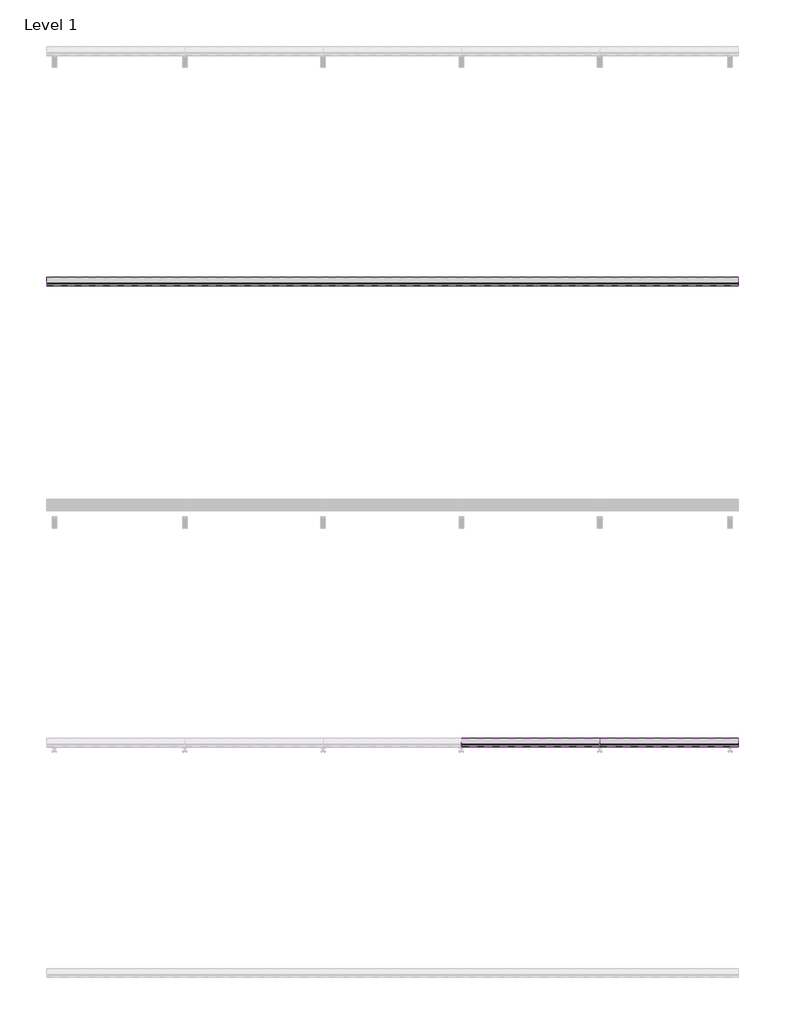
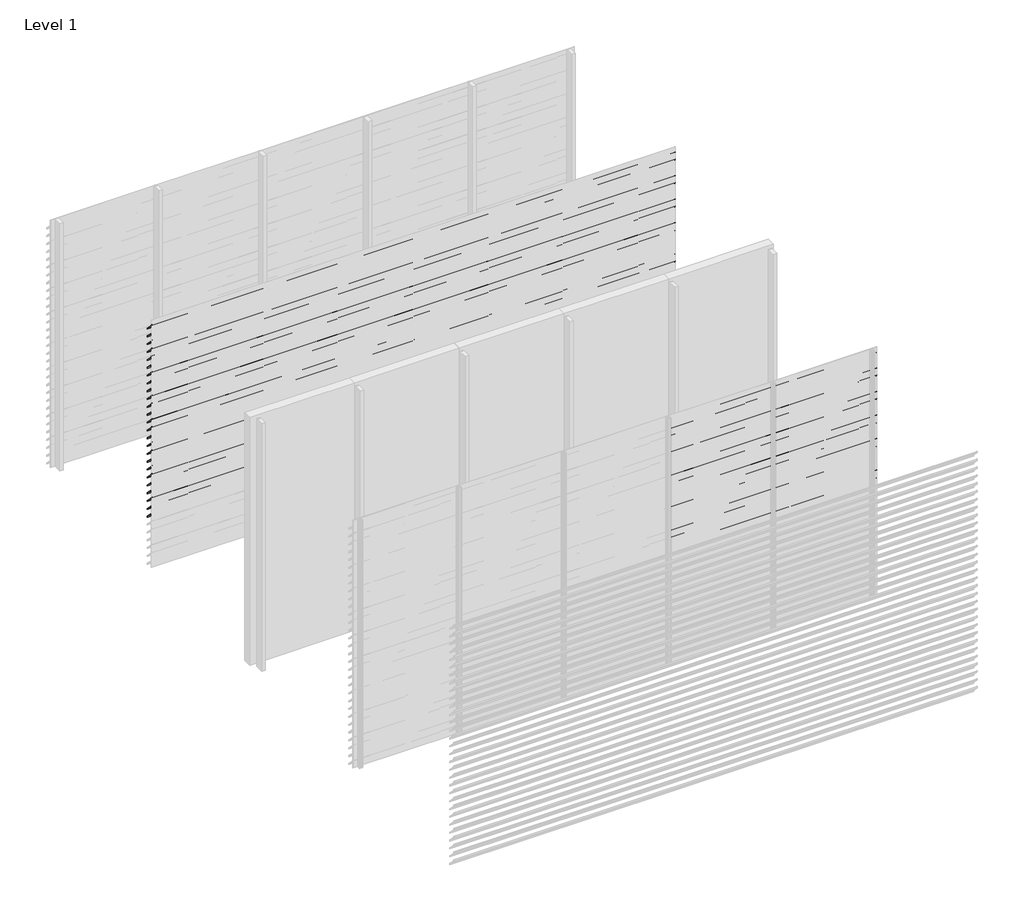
# One storey, part 9 of 24: 88 proxies.
"""IFC4 building model written with IfcOpenShell, lengths in millimetres."""

from ifc_helpers import new_model, si_unit, frame, origin, place, context, project, spatial, polyline, outline, extrude, element, save

model = new_model("IFC4")

# Units and contexts
model_context = context("Model", 3, world=origin())
ifc_project = project(units=[si_unit("LENGTHUNIT", "METRE", prefix="MILLI")], contexts=[model_context])

# Site, building, storey
site = spatial("IfcSite", under=ifc_project)
building = spatial("IfcBuilding", under=site)
storey = spatial("IfcBuildingStorey", under=building, Name="Level 1", Elevation=0.0)

# Proxies
placement = place(None, origin())
element("IfcBuildingElementProxy", 1, Name="Wall Sweeps", at=placement, inside=storey, context=model_context, shape_type="SweptSolid", body=[
    extrude(outline(polyline([(-37920.8, 2842.9), (-37922.3, 2842.9), (-37922.3, 2855.1762333), (-37998.0, 2930.4561238), (-37998.0, 2945.0), (-37996.5, 2945.0), (-37996.5, 2931.0798905), (-37920.8, 2855.8), (-37920.8, 2842.9)])), frame((0.0, 0.0, 0.0), z_axis=(1.0, 0.0, 0.0), x_axis=(0.0, 1.0, 0.0)), (0.0, 0.0, 1.0), 6000.0),
])
element("IfcBuildingElementProxy", 2, Name="Wall Sweeps", at=placement, inside=storey, context=model_context, shape_type="SweptSolid", body=[
    extrude(outline(polyline([(-37920.8, 2747.9), (-37922.3, 2747.9), (-37922.3, 2760.1762333), (-37998.0, 2835.4561238), (-37998.0, 2850.0), (-37996.5, 2850.0), (-37996.5, 2836.0798905), (-37920.8, 2760.8), (-37920.8, 2747.9)])), frame((0.0, 0.0, 0.0), z_axis=(1.0, 0.0, 0.0), x_axis=(0.0, 1.0, 0.0)), (0.0, 0.0, 1.0), 6000.0),
])
element("IfcBuildingElementProxy", 3, Name="Wall Sweeps", at=placement, inside=storey, context=model_context, shape_type="SweptSolid", body=[
    extrude(outline(polyline([(-37920.8, 2652.9), (-37922.3, 2652.9), (-37922.3, 2665.1762333), (-37998.0, 2740.4561238), (-37998.0, 2755.0), (-37996.5, 2755.0), (-37996.5, 2741.0798905), (-37920.8, 2665.8), (-37920.8, 2652.9)])), frame((0.0, 0.0, 0.0), z_axis=(1.0, 0.0, 0.0), x_axis=(0.0, 1.0, 0.0)), (0.0, 0.0, 1.0), 6000.0),
])
element("IfcBuildingElementProxy", 4, Name="Wall Sweeps", at=placement, inside=storey, context=model_context, shape_type="SweptSolid", body=[
    extrude(outline(polyline([(-37920.8, 2557.9), (-37922.3, 2557.9), (-37922.3, 2570.1762333), (-37998.0, 2645.4561238), (-37998.0, 2660.0), (-37996.5, 2660.0), (-37996.5, 2646.0798905), (-37920.8, 2570.8), (-37920.8, 2557.9)])), frame((0.0, 0.0, 0.0), z_axis=(1.0, 0.0, 0.0), x_axis=(0.0, 1.0, 0.0)), (0.0, 0.0, 1.0), 6000.0),
])
element("IfcBuildingElementProxy", 5, Name="Wall Sweeps", at=placement, inside=storey, context=model_context, shape_type="SweptSolid", body=[
    extrude(outline(polyline([(-37920.8, 2462.9), (-37922.3, 2462.9), (-37922.3, 2475.1762333), (-37998.0, 2550.4561238), (-37998.0, 2565.0), (-37996.5, 2565.0), (-37996.5, 2551.0798905), (-37920.8, 2475.8), (-37920.8, 2462.9)])), frame((0.0, 0.0, 0.0), z_axis=(1.0, 0.0, 0.0), x_axis=(0.0, 1.0, 0.0)), (0.0, 0.0, 1.0), 6000.0),
])
element("IfcBuildingElementProxy", 6, Name="Wall Sweeps", at=placement, inside=storey, context=model_context, shape_type="SweptSolid", body=[
    extrude(outline(polyline([(-37920.8, 2367.9), (-37922.3, 2367.9), (-37922.3, 2380.1762333), (-37998.0, 2455.4561238), (-37998.0, 2470.0), (-37996.5, 2470.0), (-37996.5, 2456.0798905), (-37920.8, 2380.8), (-37920.8, 2367.9)])), frame((0.0, 0.0, 0.0), z_axis=(1.0, 0.0, 0.0), x_axis=(0.0, 1.0, 0.0)), (0.0, 0.0, 1.0), 6000.0),
])
element("IfcBuildingElementProxy", 7, Name="Wall Sweeps", at=placement, inside=storey, context=model_context, shape_type="SweptSolid", body=[
    extrude(outline(polyline([(-37920.8, 2272.9), (-37922.3, 2272.9), (-37922.3, 2285.1762333), (-37998.0, 2360.4561238), (-37998.0, 2375.0), (-37996.5, 2375.0), (-37996.5, 2361.0798905), (-37920.8, 2285.8), (-37920.8, 2272.9)])), frame((0.0, 0.0, 0.0), z_axis=(1.0, 0.0, 0.0), x_axis=(0.0, 1.0, 0.0)), (0.0, 0.0, 1.0), 6000.0),
])
element("IfcBuildingElementProxy", 8, Name="Wall Sweeps", at=placement, inside=storey, context=model_context, shape_type="SweptSolid", body=[
    extrude(outline(polyline([(-37920.8, 2177.9), (-37922.3, 2177.9), (-37922.3, 2190.1762333), (-37998.0, 2265.4561238), (-37998.0, 2280.0), (-37996.5, 2280.0), (-37996.5, 2266.0798905), (-37920.8, 2190.8), (-37920.8, 2177.9)])), frame((0.0, 0.0, 0.0), z_axis=(1.0, 0.0, 0.0), x_axis=(0.0, 1.0, 0.0)), (0.0, 0.0, 1.0), 6000.0),
])
element("IfcBuildingElementProxy", 9, Name="Wall Sweeps", at=placement, inside=storey, context=model_context, shape_type="SweptSolid", body=[
    extrude(outline(polyline([(-37920.8, 2082.9), (-37922.3, 2082.9), (-37922.3, 2095.1762333), (-37998.0, 2170.4561238), (-37998.0, 2185.0), (-37996.5, 2185.0), (-37996.5, 2171.0798905), (-37920.8, 2095.8), (-37920.8, 2082.9)])), frame((0.0, 0.0, 0.0), z_axis=(1.0, 0.0, 0.0), x_axis=(0.0, 1.0, 0.0)), (0.0, 0.0, 1.0), 6000.0),
])
element("IfcBuildingElementProxy", 10, Name="Wall Sweeps", at=placement, inside=storey, context=model_context, shape_type="SweptSolid", body=[
    extrude(outline(polyline([(-37920.8, 1987.9), (-37922.3, 1987.9), (-37922.3, 2000.1762333), (-37998.0, 2075.4561238), (-37998.0, 2090.0), (-37996.5, 2090.0), (-37996.5, 2076.0798905), (-37920.8, 2000.8), (-37920.8, 1987.9)])), frame((0.0, 0.0, 0.0), z_axis=(1.0, 0.0, 0.0), x_axis=(0.0, 1.0, 0.0)), (0.0, 0.0, 1.0), 6000.0),
])
element("IfcBuildingElementProxy", 11, Name="Wall Sweeps", at=placement, inside=storey, context=model_context, shape_type="SweptSolid", body=[
    extrude(outline(polyline([(-37920.8, 1892.9), (-37922.3, 1892.9), (-37922.3, 1905.1762333), (-37998.0, 1980.4561238), (-37998.0, 1995.0), (-37996.5, 1995.0), (-37996.5, 1981.0798905), (-37920.8, 1905.8), (-37920.8, 1892.9)])), frame((0.0, 0.0, 0.0), z_axis=(1.0, 0.0, 0.0), x_axis=(0.0, 1.0, 0.0)), (0.0, 0.0, 1.0), 6000.0),
])
element("IfcBuildingElementProxy", 12, Name="Wall Sweeps", at=placement, inside=storey, context=model_context, shape_type="SweptSolid", body=[
    extrude(outline(polyline([(-37920.8, 1797.9), (-37922.3, 1797.9), (-37922.3, 1810.1762333), (-37998.0, 1885.4561238), (-37998.0, 1900.0), (-37996.5, 1900.0), (-37996.5, 1886.0798905), (-37920.8, 1810.8), (-37920.8, 1797.9)])), frame((0.0, 0.0, 0.0), z_axis=(1.0, 0.0, 0.0), x_axis=(0.0, 1.0, 0.0)), (0.0, 0.0, 1.0), 6000.0),
])
element("IfcBuildingElementProxy", 13, Name="Wall Sweeps", at=placement, inside=storey, context=model_context, shape_type="SweptSolid", body=[
    extrude(outline(polyline([(-37920.8, 1702.9), (-37922.3, 1702.9), (-37922.3, 1715.1762333), (-37998.0, 1790.4561238), (-37998.0, 1805.0), (-37996.5, 1805.0), (-37996.5, 1791.0798905), (-37920.8, 1715.8), (-37920.8, 1702.9)])), frame((0.0, 0.0, 0.0), z_axis=(1.0, 0.0, 0.0), x_axis=(0.0, 1.0, 0.0)), (0.0, 0.0, 1.0), 6000.0),
])
element("IfcBuildingElementProxy", 14, Name="Wall Sweeps", at=placement, inside=storey, context=model_context, shape_type="SweptSolid", body=[
    extrude(outline(polyline([(-37920.8, 1607.9), (-37922.3, 1607.9), (-37922.3, 1620.1762333), (-37998.0, 1695.4561238), (-37998.0, 1710.0), (-37996.5, 1710.0), (-37996.5, 1696.0798905), (-37920.8, 1620.8), (-37920.8, 1607.9)])), frame((0.0, 0.0, 0.0), z_axis=(1.0, 0.0, 0.0), x_axis=(0.0, 1.0, 0.0)), (0.0, 0.0, 1.0), 6000.0),
])
element("IfcBuildingElementProxy", 15, Name="Wall Sweeps", at=placement, inside=storey, context=model_context, shape_type="SweptSolid", body=[
    extrude(outline(polyline([(-37920.8, 1512.9), (-37922.3, 1512.9), (-37922.3, 1525.1762333), (-37998.0, 1600.4561238), (-37998.0, 1615.0), (-37996.5, 1615.0), (-37996.5, 1601.0798905), (-37920.8, 1525.8), (-37920.8, 1512.9)])), frame((0.0, 0.0, 0.0), z_axis=(1.0, 0.0, 0.0), x_axis=(0.0, 1.0, 0.0)), (0.0, 0.0, 1.0), 6000.0),
])
element("IfcBuildingElementProxy", 16, Name="Wall Sweeps", at=placement, inside=storey, context=model_context, shape_type="SweptSolid", body=[
    extrude(outline(polyline([(-37920.8, 1417.9), (-37922.3, 1417.9), (-37922.3, 1430.1762333), (-37998.0, 1505.4561238), (-37998.0, 1520.0), (-37996.5, 1520.0), (-37996.5, 1506.0798905), (-37920.8, 1430.8), (-37920.8, 1417.9)])), frame((0.0, 0.0, 0.0), z_axis=(1.0, 0.0, 0.0), x_axis=(0.0, 1.0, 0.0)), (0.0, 0.0, 1.0), 6000.0),
])
element("IfcBuildingElementProxy", 17, Name="Wall Sweeps", at=placement, inside=storey, context=model_context, shape_type="SweptSolid", body=[
    extrude(outline(polyline([(-37920.8, 1322.9), (-37922.3, 1322.9), (-37922.3, 1335.1762333), (-37998.0, 1410.4561238), (-37998.0, 1425.0), (-37996.5, 1425.0), (-37996.5, 1411.0798905), (-37920.8, 1335.8), (-37920.8, 1322.9)])), frame((0.0, 0.0, 0.0), z_axis=(1.0, 0.0, 0.0), x_axis=(0.0, 1.0, 0.0)), (0.0, 0.0, 1.0), 6000.0),
])
element("IfcBuildingElementProxy", 18, Name="Wall Sweeps", at=placement, inside=storey, context=model_context, shape_type="SweptSolid", body=[
    extrude(outline(polyline([(-37920.8, 1227.9), (-37922.3, 1227.9), (-37922.3, 1240.1762333), (-37998.0, 1315.4561238), (-37998.0, 1330.0), (-37996.5, 1330.0), (-37996.5, 1316.0798905), (-37920.8, 1240.8), (-37920.8, 1227.9)])), frame((0.0, 0.0, 0.0), z_axis=(1.0, 0.0, 0.0), x_axis=(0.0, 1.0, 0.0)), (0.0, 0.0, 1.0), 6000.0),
])
element("IfcBuildingElementProxy", 19, Name="Wall Sweeps", at=placement, inside=storey, context=model_context, shape_type="SweptSolid", body=[
    extrude(outline(polyline([(-37920.8, 1132.9), (-37922.3, 1132.9), (-37922.3, 1145.1762333), (-37998.0, 1220.4561238), (-37998.0, 1235.0), (-37996.5, 1235.0), (-37996.5, 1221.0798905), (-37920.8, 1145.8), (-37920.8, 1132.9)])), frame((0.0, 0.0, 0.0), z_axis=(1.0, 0.0, 0.0), x_axis=(0.0, 1.0, 0.0)), (0.0, 0.0, 1.0), 6000.0),
])
element("IfcBuildingElementProxy", 20, Name="Wall Sweeps", at=placement, inside=storey, context=model_context, shape_type="SweptSolid", body=[
    extrude(outline(polyline([(-37920.8, 1037.9), (-37922.3, 1037.9), (-37922.3, 1050.1762333), (-37998.0, 1125.4561238), (-37998.0, 1140.0), (-37996.5, 1140.0), (-37996.5, 1126.0798905), (-37920.8, 1050.8), (-37920.8, 1037.9)])), frame((0.0, 0.0, 0.0), z_axis=(1.0, 0.0, 0.0), x_axis=(0.0, 1.0, 0.0)), (0.0, 0.0, 1.0), 6000.0),
])
element("IfcBuildingElementProxy", 21, Name="Wall Sweeps", at=placement, inside=storey, context=model_context, shape_type="SweptSolid", body=[
    extrude(outline(polyline([(-37920.8, 942.9), (-37922.3, 942.9), (-37922.3, 955.1762333), (-37998.0, 1030.4561238), (-37998.0, 1045.0), (-37996.5, 1045.0), (-37996.5, 1031.0798905), (-37920.8, 955.8), (-37920.8, 942.9)])), frame((0.0, 0.0, 0.0), z_axis=(1.0, 0.0, 0.0), x_axis=(0.0, 1.0, 0.0)), (0.0, 0.0, 1.0), 6000.0),
])
element("IfcBuildingElementProxy", 22, Name="Wall Sweeps", at=placement, inside=storey, context=model_context, shape_type="SweptSolid", body=[
    extrude(outline(polyline([(-37920.8, 847.9), (-37922.3, 847.9), (-37922.3, 860.1762333), (-37998.0, 935.4561238), (-37998.0, 950.0), (-37996.5, 950.0), (-37996.5, 936.0798905), (-37920.8, 860.8), (-37920.8, 847.9)])), frame((0.0, 0.0, 0.0), z_axis=(1.0, 0.0, 0.0), x_axis=(0.0, 1.0, 0.0)), (0.0, 0.0, 1.0), 6000.0),
])
element("IfcBuildingElementProxy", 23, Name="Wall Sweeps", at=placement, inside=storey, context=model_context, shape_type="SweptSolid", body=[
    extrude(outline(polyline([(-37920.8, 752.9), (-37922.3, 752.9), (-37922.3, 765.1762333), (-37998.0, 840.4561238), (-37998.0, 855.0), (-37996.5, 855.0), (-37996.5, 841.0798905), (-37920.8, 765.8), (-37920.8, 752.9)])), frame((0.0, 0.0, 0.0), z_axis=(1.0, 0.0, 0.0), x_axis=(0.0, 1.0, 0.0)), (0.0, 0.0, 1.0), 6000.0),
])
element("IfcBuildingElementProxy", 24, Name="Wall Sweeps", at=placement, inside=storey, context=model_context, shape_type="SweptSolid", body=[
    extrude(outline(polyline([(-37920.8, 657.9), (-37922.3, 657.9), (-37922.3, 670.1762333), (-37998.0, 745.4561238), (-37998.0, 760.0), (-37996.5, 760.0), (-37996.5, 746.0798905), (-37920.8, 670.8), (-37920.8, 657.9)])), frame((0.0, 0.0, 0.0), z_axis=(1.0, 0.0, 0.0), x_axis=(0.0, 1.0, 0.0)), (0.0, 0.0, 1.0), 6000.0),
])
element("IfcBuildingElementProxy", 25, Name="Wall Sweeps", at=placement, inside=storey, context=model_context, shape_type="SweptSolid", body=[
    extrude(outline(polyline([(-37920.8, 562.9), (-37922.3, 562.9), (-37922.3, 575.1762333), (-37998.0, 650.4561238), (-37998.0, 665.0), (-37996.5, 665.0), (-37996.5, 651.0798905), (-37920.8, 575.8), (-37920.8, 562.9)])), frame((0.0, 0.0, 0.0), z_axis=(1.0, 0.0, 0.0), x_axis=(0.0, 1.0, 0.0)), (0.0, 0.0, 1.0), 6000.0),
])
element("IfcBuildingElementProxy", 26, Name="Wall Sweeps", at=placement, inside=storey, context=model_context, shape_type="SweptSolid", body=[
    extrude(outline(polyline([(-41920.8, -7.1), (-41922.3, -7.1), (-41922.3, 5.1762333), (-41998.0, 80.4561238), (-41998.0, 95.0), (-41996.5, 95.0), (-41996.5, 81.0798905), (-41920.8, 5.8), (-41920.8, -7.1)])), frame((2400.0, 0.0, 0.0), z_axis=(1.0, 0.0, 0.0), x_axis=(0.0, 1.0, 0.0)), (0.0, 0.0, 1.0), 1200.0),
])
element("IfcBuildingElementProxy", 27, Name="Wall Sweeps", at=placement, inside=storey, context=model_context, shape_type="SweptSolid", body=[
    extrude(outline(polyline([(-41920.8, 2842.9), (-41922.3, 2842.9), (-41922.3, 2855.1762333), (-41998.0, 2930.4561238), (-41998.0, 2945.0), (-41996.5, 2945.0), (-41996.5, 2931.0798905), (-41920.8, 2855.8), (-41920.8, 2842.9)])), frame((3600.0, 0.0, 0.0), z_axis=(1.0, 0.0, 0.0), x_axis=(0.0, 1.0, 0.0)), (0.0, 0.0, 1.0), 1200.0),
])
element("IfcBuildingElementProxy", 28, Name="Wall Sweeps", at=placement, inside=storey, context=model_context, shape_type="SweptSolid", body=[
    extrude(outline(polyline([(-41920.8, 2747.9), (-41922.3, 2747.9), (-41922.3, 2760.1762333), (-41998.0, 2835.4561238), (-41998.0, 2850.0), (-41996.5, 2850.0), (-41996.5, 2836.0798905), (-41920.8, 2760.8), (-41920.8, 2747.9)])), frame((3600.0, 0.0, 0.0), z_axis=(1.0, 0.0, 0.0), x_axis=(0.0, 1.0, 0.0)), (0.0, 0.0, 1.0), 1200.0),
])
element("IfcBuildingElementProxy", 29, Name="Wall Sweeps", at=placement, inside=storey, context=model_context, shape_type="SweptSolid", body=[
    extrude(outline(polyline([(-41920.8, 2652.9), (-41922.3, 2652.9), (-41922.3, 2665.1762333), (-41998.0, 2740.4561238), (-41998.0, 2755.0), (-41996.5, 2755.0), (-41996.5, 2741.0798905), (-41920.8, 2665.8), (-41920.8, 2652.9)])), frame((3600.0, 0.0, 0.0), z_axis=(1.0, 0.0, 0.0), x_axis=(0.0, 1.0, 0.0)), (0.0, 0.0, 1.0), 1200.0),
])
element("IfcBuildingElementProxy", 30, Name="Wall Sweeps", at=placement, inside=storey, context=model_context, shape_type="SweptSolid", body=[
    extrude(outline(polyline([(-41920.8, 2557.9), (-41922.3, 2557.9), (-41922.3, 2570.1762333), (-41998.0, 2645.4561238), (-41998.0, 2660.0), (-41996.5, 2660.0), (-41996.5, 2646.0798905), (-41920.8, 2570.8), (-41920.8, 2557.9)])), frame((3600.0, 0.0, 0.0), z_axis=(1.0, 0.0, 0.0), x_axis=(0.0, 1.0, 0.0)), (0.0, 0.0, 1.0), 1200.0),
])
element("IfcBuildingElementProxy", 31, Name="Wall Sweeps", at=placement, inside=storey, context=model_context, shape_type="SweptSolid", body=[
    extrude(outline(polyline([(-41920.8, 2462.9), (-41922.3, 2462.9), (-41922.3, 2475.1762333), (-41998.0, 2550.4561238), (-41998.0, 2565.0), (-41996.5, 2565.0), (-41996.5, 2551.0798905), (-41920.8, 2475.8), (-41920.8, 2462.9)])), frame((3600.0, 0.0, 0.0), z_axis=(1.0, 0.0, 0.0), x_axis=(0.0, 1.0, 0.0)), (0.0, 0.0, 1.0), 1200.0),
])
element("IfcBuildingElementProxy", 32, Name="Wall Sweeps", at=placement, inside=storey, context=model_context, shape_type="SweptSolid", body=[
    extrude(outline(polyline([(-41920.8, 2367.9), (-41922.3, 2367.9), (-41922.3, 2380.1762333), (-41998.0, 2455.4561238), (-41998.0, 2470.0), (-41996.5, 2470.0), (-41996.5, 2456.0798905), (-41920.8, 2380.8), (-41920.8, 2367.9)])), frame((3600.0, 0.0, 0.0), z_axis=(1.0, 0.0, 0.0), x_axis=(0.0, 1.0, 0.0)), (0.0, 0.0, 1.0), 1200.0),
])
element("IfcBuildingElementProxy", 33, Name="Wall Sweeps", at=placement, inside=storey, context=model_context, shape_type="SweptSolid", body=[
    extrude(outline(polyline([(-41920.8, 2272.9), (-41922.3, 2272.9), (-41922.3, 2285.1762333), (-41998.0, 2360.4561238), (-41998.0, 2375.0), (-41996.5, 2375.0), (-41996.5, 2361.0798905), (-41920.8, 2285.8), (-41920.8, 2272.9)])), frame((3600.0, 0.0, 0.0), z_axis=(1.0, 0.0, 0.0), x_axis=(0.0, 1.0, 0.0)), (0.0, 0.0, 1.0), 1200.0),
])
element("IfcBuildingElementProxy", 34, Name="Wall Sweeps", at=placement, inside=storey, context=model_context, shape_type="SweptSolid", body=[
    extrude(outline(polyline([(-41920.8, 2177.9), (-41922.3, 2177.9), (-41922.3, 2190.1762333), (-41998.0, 2265.4561238), (-41998.0, 2280.0), (-41996.5, 2280.0), (-41996.5, 2266.0798905), (-41920.8, 2190.8), (-41920.8, 2177.9)])), frame((3600.0, 0.0, 0.0), z_axis=(1.0, 0.0, 0.0), x_axis=(0.0, 1.0, 0.0)), (0.0, 0.0, 1.0), 1200.0),
])
element("IfcBuildingElementProxy", 35, Name="Wall Sweeps", at=placement, inside=storey, context=model_context, shape_type="SweptSolid", body=[
    extrude(outline(polyline([(-41920.8, 2082.9), (-41922.3, 2082.9), (-41922.3, 2095.1762333), (-41998.0, 2170.4561238), (-41998.0, 2185.0), (-41996.5, 2185.0), (-41996.5, 2171.0798905), (-41920.8, 2095.8), (-41920.8, 2082.9)])), frame((3600.0, 0.0, 0.0), z_axis=(1.0, 0.0, 0.0), x_axis=(0.0, 1.0, 0.0)), (0.0, 0.0, 1.0), 1200.0),
])
element("IfcBuildingElementProxy", 36, Name="Wall Sweeps", at=placement, inside=storey, context=model_context, shape_type="SweptSolid", body=[
    extrude(outline(polyline([(-41920.8, 1987.9), (-41922.3, 1987.9), (-41922.3, 2000.1762333), (-41998.0, 2075.4561238), (-41998.0, 2090.0), (-41996.5, 2090.0), (-41996.5, 2076.0798905), (-41920.8, 2000.8), (-41920.8, 1987.9)])), frame((3600.0, 0.0, 0.0), z_axis=(1.0, 0.0, 0.0), x_axis=(0.0, 1.0, 0.0)), (0.0, 0.0, 1.0), 1200.0),
])
element("IfcBuildingElementProxy", 37, Name="Wall Sweeps", at=placement, inside=storey, context=model_context, shape_type="SweptSolid", body=[
    extrude(outline(polyline([(-41920.8, 1892.9), (-41922.3, 1892.9), (-41922.3, 1905.1762333), (-41998.0, 1980.4561238), (-41998.0, 1995.0), (-41996.5, 1995.0), (-41996.5, 1981.0798905), (-41920.8, 1905.8), (-41920.8, 1892.9)])), frame((3600.0, 0.0, 0.0), z_axis=(1.0, 0.0, 0.0), x_axis=(0.0, 1.0, 0.0)), (0.0, 0.0, 1.0), 1200.0),
])
element("IfcBuildingElementProxy", 38, Name="Wall Sweeps", at=placement, inside=storey, context=model_context, shape_type="SweptSolid", body=[
    extrude(outline(polyline([(-41920.8, 1797.9), (-41922.3, 1797.9), (-41922.3, 1810.1762333), (-41998.0, 1885.4561238), (-41998.0, 1900.0), (-41996.5, 1900.0), (-41996.5, 1886.0798905), (-41920.8, 1810.8), (-41920.8, 1797.9)])), frame((3600.0, 0.0, 0.0), z_axis=(1.0, 0.0, 0.0), x_axis=(0.0, 1.0, 0.0)), (0.0, 0.0, 1.0), 1200.0),
])
element("IfcBuildingElementProxy", 39, Name="Wall Sweeps", at=placement, inside=storey, context=model_context, shape_type="SweptSolid", body=[
    extrude(outline(polyline([(-41920.8, 1702.9), (-41922.3, 1702.9), (-41922.3, 1715.1762333), (-41998.0, 1790.4561238), (-41998.0, 1805.0), (-41996.5, 1805.0), (-41996.5, 1791.0798905), (-41920.8, 1715.8), (-41920.8, 1702.9)])), frame((3600.0, 0.0, 0.0), z_axis=(1.0, 0.0, 0.0), x_axis=(0.0, 1.0, 0.0)), (0.0, 0.0, 1.0), 1200.0),
])
element("IfcBuildingElementProxy", 40, Name="Wall Sweeps", at=placement, inside=storey, context=model_context, shape_type="SweptSolid", body=[
    extrude(outline(polyline([(-41920.8, 1607.9), (-41922.3, 1607.9), (-41922.3, 1620.1762333), (-41998.0, 1695.4561238), (-41998.0, 1710.0), (-41996.5, 1710.0), (-41996.5, 1696.0798905), (-41920.8, 1620.8), (-41920.8, 1607.9)])), frame((3600.0, 0.0, 0.0), z_axis=(1.0, 0.0, 0.0), x_axis=(0.0, 1.0, 0.0)), (0.0, 0.0, 1.0), 1200.0),
])
element("IfcBuildingElementProxy", 41, Name="Wall Sweeps", at=placement, inside=storey, context=model_context, shape_type="SweptSolid", body=[
    extrude(outline(polyline([(-41920.8, 1512.9), (-41922.3, 1512.9), (-41922.3, 1525.1762333), (-41998.0, 1600.4561238), (-41998.0, 1615.0), (-41996.5, 1615.0), (-41996.5, 1601.0798905), (-41920.8, 1525.8), (-41920.8, 1512.9)])), frame((3600.0, 0.0, 0.0), z_axis=(1.0, 0.0, 0.0), x_axis=(0.0, 1.0, 0.0)), (0.0, 0.0, 1.0), 1200.0),
])
element("IfcBuildingElementProxy", 42, Name="Wall Sweeps", at=placement, inside=storey, context=model_context, shape_type="SweptSolid", body=[
    extrude(outline(polyline([(-41920.8, 1417.9), (-41922.3, 1417.9), (-41922.3, 1430.1762333), (-41998.0, 1505.4561238), (-41998.0, 1520.0), (-41996.5, 1520.0), (-41996.5, 1506.0798905), (-41920.8, 1430.8), (-41920.8, 1417.9)])), frame((3600.0, 0.0, 0.0), z_axis=(1.0, 0.0, 0.0), x_axis=(0.0, 1.0, 0.0)), (0.0, 0.0, 1.0), 1200.0),
])
element("IfcBuildingElementProxy", 43, Name="Wall Sweeps", at=placement, inside=storey, context=model_context, shape_type="SweptSolid", body=[
    extrude(outline(polyline([(-41920.8, 1322.9), (-41922.3, 1322.9), (-41922.3, 1335.1762333), (-41998.0, 1410.4561238), (-41998.0, 1425.0), (-41996.5, 1425.0), (-41996.5, 1411.0798905), (-41920.8, 1335.8), (-41920.8, 1322.9)])), frame((3600.0, 0.0, 0.0), z_axis=(1.0, 0.0, 0.0), x_axis=(0.0, 1.0, 0.0)), (0.0, 0.0, 1.0), 1200.0),
])
element("IfcBuildingElementProxy", 44, Name="Wall Sweeps", at=placement, inside=storey, context=model_context, shape_type="SweptSolid", body=[
    extrude(outline(polyline([(-41920.8, 1227.9), (-41922.3, 1227.9), (-41922.3, 1240.1762333), (-41998.0, 1315.4561238), (-41998.0, 1330.0), (-41996.5, 1330.0), (-41996.5, 1316.0798905), (-41920.8, 1240.8), (-41920.8, 1227.9)])), frame((3600.0, 0.0, 0.0), z_axis=(1.0, 0.0, 0.0), x_axis=(0.0, 1.0, 0.0)), (0.0, 0.0, 1.0), 1200.0),
])
element("IfcBuildingElementProxy", 45, Name="Wall Sweeps", at=placement, inside=storey, context=model_context, shape_type="SweptSolid", body=[
    extrude(outline(polyline([(-41920.8, 1132.9), (-41922.3, 1132.9), (-41922.3, 1145.1762333), (-41998.0, 1220.4561238), (-41998.0, 1235.0), (-41996.5, 1235.0), (-41996.5, 1221.0798905), (-41920.8, 1145.8), (-41920.8, 1132.9)])), frame((3600.0, 0.0, 0.0), z_axis=(1.0, 0.0, 0.0), x_axis=(0.0, 1.0, 0.0)), (0.0, 0.0, 1.0), 1200.0),
])
element("IfcBuildingElementProxy", 46, Name="Wall Sweeps", at=placement, inside=storey, context=model_context, shape_type="SweptSolid", body=[
    extrude(outline(polyline([(-41920.8, 1037.9), (-41922.3, 1037.9), (-41922.3, 1050.1762333), (-41998.0, 1125.4561238), (-41998.0, 1140.0), (-41996.5, 1140.0), (-41996.5, 1126.0798905), (-41920.8, 1050.8), (-41920.8, 1037.9)])), frame((3600.0, 0.0, 0.0), z_axis=(1.0, 0.0, 0.0), x_axis=(0.0, 1.0, 0.0)), (0.0, 0.0, 1.0), 1200.0),
])
element("IfcBuildingElementProxy", 47, Name="Wall Sweeps", at=placement, inside=storey, context=model_context, shape_type="SweptSolid", body=[
    extrude(outline(polyline([(-41920.8, 942.9), (-41922.3, 942.9), (-41922.3, 955.1762333), (-41998.0, 1030.4561238), (-41998.0, 1045.0), (-41996.5, 1045.0), (-41996.5, 1031.0798905), (-41920.8, 955.8), (-41920.8, 942.9)])), frame((3600.0, 0.0, 0.0), z_axis=(1.0, 0.0, 0.0), x_axis=(0.0, 1.0, 0.0)), (0.0, 0.0, 1.0), 1200.0),
])
element("IfcBuildingElementProxy", 48, Name="Wall Sweeps", at=placement, inside=storey, context=model_context, shape_type="SweptSolid", body=[
    extrude(outline(polyline([(-41920.8, 847.9), (-41922.3, 847.9), (-41922.3, 860.1762333), (-41998.0, 935.4561238), (-41998.0, 950.0), (-41996.5, 950.0), (-41996.5, 936.0798905), (-41920.8, 860.8), (-41920.8, 847.9)])), frame((3600.0, 0.0, 0.0), z_axis=(1.0, 0.0, 0.0), x_axis=(0.0, 1.0, 0.0)), (0.0, 0.0, 1.0), 1200.0),
])
element("IfcBuildingElementProxy", 49, Name="Wall Sweeps", at=placement, inside=storey, context=model_context, shape_type="SweptSolid", body=[
    extrude(outline(polyline([(-41920.8, 752.9), (-41922.3, 752.9), (-41922.3, 765.1762333), (-41998.0, 840.4561238), (-41998.0, 855.0), (-41996.5, 855.0), (-41996.5, 841.0798905), (-41920.8, 765.8), (-41920.8, 752.9)])), frame((3600.0, 0.0, 0.0), z_axis=(1.0, 0.0, 0.0), x_axis=(0.0, 1.0, 0.0)), (0.0, 0.0, 1.0), 1200.0),
])
element("IfcBuildingElementProxy", 50, Name="Wall Sweeps", at=placement, inside=storey, context=model_context, shape_type="SweptSolid", body=[
    extrude(outline(polyline([(-41920.8, 657.9), (-41922.3, 657.9), (-41922.3, 670.1762333), (-41998.0, 745.4561238), (-41998.0, 760.0), (-41996.5, 760.0), (-41996.5, 746.0798905), (-41920.8, 670.8), (-41920.8, 657.9)])), frame((3600.0, 0.0, 0.0), z_axis=(1.0, 0.0, 0.0), x_axis=(0.0, 1.0, 0.0)), (0.0, 0.0, 1.0), 1200.0),
])
element("IfcBuildingElementProxy", 51, Name="Wall Sweeps", at=placement, inside=storey, context=model_context, shape_type="SweptSolid", body=[
    extrude(outline(polyline([(-41920.8, 562.9), (-41922.3, 562.9), (-41922.3, 575.1762333), (-41998.0, 650.4561238), (-41998.0, 665.0), (-41996.5, 665.0), (-41996.5, 651.0798905), (-41920.8, 575.8), (-41920.8, 562.9)])), frame((3600.0, 0.0, 0.0), z_axis=(1.0, 0.0, 0.0), x_axis=(0.0, 1.0, 0.0)), (0.0, 0.0, 1.0), 1200.0),
])
element("IfcBuildingElementProxy", 52, Name="Wall Sweeps", at=placement, inside=storey, context=model_context, shape_type="SweptSolid", body=[
    extrude(outline(polyline([(-41920.8, 467.9), (-41922.3, 467.9), (-41922.3, 480.1762333), (-41998.0, 555.4561238), (-41998.0, 570.0), (-41996.5, 570.0), (-41996.5, 556.0798905), (-41920.8, 480.8), (-41920.8, 467.9)])), frame((3600.0, 0.0, 0.0), z_axis=(1.0, 0.0, 0.0), x_axis=(0.0, 1.0, 0.0)), (0.0, 0.0, 1.0), 1200.0),
])
element("IfcBuildingElementProxy", 53, Name="Wall Sweeps", at=placement, inside=storey, context=model_context, shape_type="SweptSolid", body=[
    extrude(outline(polyline([(-41920.8, 372.9), (-41922.3, 372.9), (-41922.3, 385.1762333), (-41998.0, 460.4561238), (-41998.0, 475.0), (-41996.5, 475.0), (-41996.5, 461.0798905), (-41920.8, 385.8), (-41920.8, 372.9)])), frame((3600.0, 0.0, 0.0), z_axis=(1.0, 0.0, 0.0), x_axis=(0.0, 1.0, 0.0)), (0.0, 0.0, 1.0), 1200.0),
])
element("IfcBuildingElementProxy", 54, Name="Wall Sweeps", at=placement, inside=storey, context=model_context, shape_type="SweptSolid", body=[
    extrude(outline(polyline([(-41920.8, 277.9), (-41922.3, 277.9), (-41922.3, 290.1762333), (-41998.0, 365.4561238), (-41998.0, 380.0), (-41996.5, 380.0), (-41996.5, 366.0798905), (-41920.8, 290.8), (-41920.8, 277.9)])), frame((3600.0, 0.0, 0.0), z_axis=(1.0, 0.0, 0.0), x_axis=(0.0, 1.0, 0.0)), (0.0, 0.0, 1.0), 1200.0),
])
element("IfcBuildingElementProxy", 55, Name="Wall Sweeps", at=placement, inside=storey, context=model_context, shape_type="SweptSolid", body=[
    extrude(outline(polyline([(-41920.8, 182.9), (-41922.3, 182.9), (-41922.3, 195.1762333), (-41998.0, 270.4561238), (-41998.0, 285.0), (-41996.5, 285.0), (-41996.5, 271.0798905), (-41920.8, 195.8), (-41920.8, 182.9)])), frame((3600.0, 0.0, 0.0), z_axis=(1.0, 0.0, 0.0), x_axis=(0.0, 1.0, 0.0)), (0.0, 0.0, 1.0), 1200.0),
])
element("IfcBuildingElementProxy", 56, Name="Wall Sweeps", at=placement, inside=storey, context=model_context, shape_type="SweptSolid", body=[
    extrude(outline(polyline([(-41920.8, 87.9), (-41922.3, 87.9), (-41922.3, 100.1762333), (-41998.0, 175.4561238), (-41998.0, 190.0), (-41996.5, 190.0), (-41996.5, 176.0798905), (-41920.8, 100.8), (-41920.8, 87.9)])), frame((3600.0, 0.0, 0.0), z_axis=(1.0, 0.0, 0.0), x_axis=(0.0, 1.0, 0.0)), (0.0, 0.0, 1.0), 1200.0),
])
element("IfcBuildingElementProxy", 57, Name="Wall Sweeps", at=placement, inside=storey, context=model_context, shape_type="SweptSolid", body=[
    extrude(outline(polyline([(-41920.8, -7.1), (-41922.3, -7.1), (-41922.3, 5.1762333), (-41998.0, 80.4561238), (-41998.0, 95.0), (-41996.5, 95.0), (-41996.5, 81.0798905), (-41920.8, 5.8), (-41920.8, -7.1)])), frame((3600.0, 0.0, 0.0), z_axis=(1.0, 0.0, 0.0), x_axis=(0.0, 1.0, 0.0)), (0.0, 0.0, 1.0), 1200.0),
])
element("IfcBuildingElementProxy", 58, Name="Wall Sweeps", at=placement, inside=storey, context=model_context, shape_type="SweptSolid", body=[
    extrude(outline(polyline([(-41920.8, 2842.9), (-41922.3, 2842.9), (-41922.3, 2855.1762333), (-41998.0, 2930.4561238), (-41998.0, 2945.0), (-41996.5, 2945.0), (-41996.5, 2931.0798905), (-41920.8, 2855.8), (-41920.8, 2842.9)])), frame((4800.0, 0.0, 0.0), z_axis=(1.0, 0.0, 0.0), x_axis=(0.0, 1.0, 0.0)), (0.0, 0.0, 1.0), 1200.0),
])
element("IfcBuildingElementProxy", 59, Name="Wall Sweeps", at=placement, inside=storey, context=model_context, shape_type="SweptSolid", body=[
    extrude(outline(polyline([(-41920.8, 2747.9), (-41922.3, 2747.9), (-41922.3, 2760.1762333), (-41998.0, 2835.4561238), (-41998.0, 2850.0), (-41996.5, 2850.0), (-41996.5, 2836.0798905), (-41920.8, 2760.8), (-41920.8, 2747.9)])), frame((4800.0, 0.0, 0.0), z_axis=(1.0, 0.0, 0.0), x_axis=(0.0, 1.0, 0.0)), (0.0, 0.0, 1.0), 1200.0),
])
element("IfcBuildingElementProxy", 60, Name="Wall Sweeps", at=placement, inside=storey, context=model_context, shape_type="SweptSolid", body=[
    extrude(outline(polyline([(-41920.8, 2652.9), (-41922.3, 2652.9), (-41922.3, 2665.1762333), (-41998.0, 2740.4561238), (-41998.0, 2755.0), (-41996.5, 2755.0), (-41996.5, 2741.0798905), (-41920.8, 2665.8), (-41920.8, 2652.9)])), frame((4800.0, 0.0, 0.0), z_axis=(1.0, 0.0, 0.0), x_axis=(0.0, 1.0, 0.0)), (0.0, 0.0, 1.0), 1200.0),
])
element("IfcBuildingElementProxy", 61, Name="Wall Sweeps", at=placement, inside=storey, context=model_context, shape_type="SweptSolid", body=[
    extrude(outline(polyline([(-41920.8, 2557.9), (-41922.3, 2557.9), (-41922.3, 2570.1762333), (-41998.0, 2645.4561238), (-41998.0, 2660.0), (-41996.5, 2660.0), (-41996.5, 2646.0798905), (-41920.8, 2570.8), (-41920.8, 2557.9)])), frame((4800.0, 0.0, 0.0), z_axis=(1.0, 0.0, 0.0), x_axis=(0.0, 1.0, 0.0)), (0.0, 0.0, 1.0), 1200.0),
])
element("IfcBuildingElementProxy", 62, Name="Wall Sweeps", at=placement, inside=storey, context=model_context, shape_type="SweptSolid", body=[
    extrude(outline(polyline([(-41920.8, 2462.9), (-41922.3, 2462.9), (-41922.3, 2475.1762333), (-41998.0, 2550.4561238), (-41998.0, 2565.0), (-41996.5, 2565.0), (-41996.5, 2551.0798905), (-41920.8, 2475.8), (-41920.8, 2462.9)])), frame((4800.0, 0.0, 0.0), z_axis=(1.0, 0.0, 0.0), x_axis=(0.0, 1.0, 0.0)), (0.0, 0.0, 1.0), 1200.0),
])
element("IfcBuildingElementProxy", 63, Name="Wall Sweeps", at=placement, inside=storey, context=model_context, shape_type="SweptSolid", body=[
    extrude(outline(polyline([(-41920.8, 2367.9), (-41922.3, 2367.9), (-41922.3, 2380.1762333), (-41998.0, 2455.4561238), (-41998.0, 2470.0), (-41996.5, 2470.0), (-41996.5, 2456.0798905), (-41920.8, 2380.8), (-41920.8, 2367.9)])), frame((4800.0, 0.0, 0.0), z_axis=(1.0, 0.0, 0.0), x_axis=(0.0, 1.0, 0.0)), (0.0, 0.0, 1.0), 1200.0),
])
element("IfcBuildingElementProxy", 64, Name="Wall Sweeps", at=placement, inside=storey, context=model_context, shape_type="SweptSolid", body=[
    extrude(outline(polyline([(-41920.8, 2272.9), (-41922.3, 2272.9), (-41922.3, 2285.1762333), (-41998.0, 2360.4561238), (-41998.0, 2375.0), (-41996.5, 2375.0), (-41996.5, 2361.0798905), (-41920.8, 2285.8), (-41920.8, 2272.9)])), frame((4800.0, 0.0, 0.0), z_axis=(1.0, 0.0, 0.0), x_axis=(0.0, 1.0, 0.0)), (0.0, 0.0, 1.0), 1200.0),
])
element("IfcBuildingElementProxy", 65, Name="Wall Sweeps", at=placement, inside=storey, context=model_context, shape_type="SweptSolid", body=[
    extrude(outline(polyline([(-41920.8, 2177.9), (-41922.3, 2177.9), (-41922.3, 2190.1762333), (-41998.0, 2265.4561238), (-41998.0, 2280.0), (-41996.5, 2280.0), (-41996.5, 2266.0798905), (-41920.8, 2190.8), (-41920.8, 2177.9)])), frame((4800.0, 0.0, 0.0), z_axis=(1.0, 0.0, 0.0), x_axis=(0.0, 1.0, 0.0)), (0.0, 0.0, 1.0), 1200.0),
])
element("IfcBuildingElementProxy", 66, Name="Wall Sweeps", at=placement, inside=storey, context=model_context, shape_type="SweptSolid", body=[
    extrude(outline(polyline([(-41920.8, 2082.9), (-41922.3, 2082.9), (-41922.3, 2095.1762333), (-41998.0, 2170.4561238), (-41998.0, 2185.0), (-41996.5, 2185.0), (-41996.5, 2171.0798905), (-41920.8, 2095.8), (-41920.8, 2082.9)])), frame((4800.0, 0.0, 0.0), z_axis=(1.0, 0.0, 0.0), x_axis=(0.0, 1.0, 0.0)), (0.0, 0.0, 1.0), 1200.0),
])
element("IfcBuildingElementProxy", 67, Name="Wall Sweeps", at=placement, inside=storey, context=model_context, shape_type="SweptSolid", body=[
    extrude(outline(polyline([(-41920.8, 1987.9), (-41922.3, 1987.9), (-41922.3, 2000.1762333), (-41998.0, 2075.4561238), (-41998.0, 2090.0), (-41996.5, 2090.0), (-41996.5, 2076.0798905), (-41920.8, 2000.8), (-41920.8, 1987.9)])), frame((4800.0, 0.0, 0.0), z_axis=(1.0, 0.0, 0.0), x_axis=(0.0, 1.0, 0.0)), (0.0, 0.0, 1.0), 1200.0),
])
element("IfcBuildingElementProxy", 68, Name="Wall Sweeps", at=placement, inside=storey, context=model_context, shape_type="SweptSolid", body=[
    extrude(outline(polyline([(-41920.8, 1892.9), (-41922.3, 1892.9), (-41922.3, 1905.1762333), (-41998.0, 1980.4561238), (-41998.0, 1995.0), (-41996.5, 1995.0), (-41996.5, 1981.0798905), (-41920.8, 1905.8), (-41920.8, 1892.9)])), frame((4800.0, 0.0, 0.0), z_axis=(1.0, 0.0, 0.0), x_axis=(0.0, 1.0, 0.0)), (0.0, 0.0, 1.0), 1200.0),
])
element("IfcBuildingElementProxy", 69, Name="Wall Sweeps", at=placement, inside=storey, context=model_context, shape_type="SweptSolid", body=[
    extrude(outline(polyline([(-41920.8, 1797.9), (-41922.3, 1797.9), (-41922.3, 1810.1762333), (-41998.0, 1885.4561238), (-41998.0, 1900.0), (-41996.5, 1900.0), (-41996.5, 1886.0798905), (-41920.8, 1810.8), (-41920.8, 1797.9)])), frame((4800.0, 0.0, 0.0), z_axis=(1.0, 0.0, 0.0), x_axis=(0.0, 1.0, 0.0)), (0.0, 0.0, 1.0), 1200.0),
])
element("IfcBuildingElementProxy", 70, Name="Wall Sweeps", at=placement, inside=storey, context=model_context, shape_type="SweptSolid", body=[
    extrude(outline(polyline([(-41920.8, 1702.9), (-41922.3, 1702.9), (-41922.3, 1715.1762333), (-41998.0, 1790.4561238), (-41998.0, 1805.0), (-41996.5, 1805.0), (-41996.5, 1791.0798905), (-41920.8, 1715.8), (-41920.8, 1702.9)])), frame((4800.0, 0.0, 0.0), z_axis=(1.0, 0.0, 0.0), x_axis=(0.0, 1.0, 0.0)), (0.0, 0.0, 1.0), 1200.0),
])
element("IfcBuildingElementProxy", 71, Name="Wall Sweeps", at=placement, inside=storey, context=model_context, shape_type="SweptSolid", body=[
    extrude(outline(polyline([(-41920.8, 1607.9), (-41922.3, 1607.9), (-41922.3, 1620.1762333), (-41998.0, 1695.4561238), (-41998.0, 1710.0), (-41996.5, 1710.0), (-41996.5, 1696.0798905), (-41920.8, 1620.8), (-41920.8, 1607.9)])), frame((4800.0, 0.0, 0.0), z_axis=(1.0, 0.0, 0.0), x_axis=(0.0, 1.0, 0.0)), (0.0, 0.0, 1.0), 1200.0),
])
element("IfcBuildingElementProxy", 72, Name="Wall Sweeps", at=placement, inside=storey, context=model_context, shape_type="SweptSolid", body=[
    extrude(outline(polyline([(-41920.8, 1512.9), (-41922.3, 1512.9), (-41922.3, 1525.1762333), (-41998.0, 1600.4561238), (-41998.0, 1615.0), (-41996.5, 1615.0), (-41996.5, 1601.0798905), (-41920.8, 1525.8), (-41920.8, 1512.9)])), frame((4800.0, 0.0, 0.0), z_axis=(1.0, 0.0, 0.0), x_axis=(0.0, 1.0, 0.0)), (0.0, 0.0, 1.0), 1200.0),
])
element("IfcBuildingElementProxy", 73, Name="Wall Sweeps", at=placement, inside=storey, context=model_context, shape_type="SweptSolid", body=[
    extrude(outline(polyline([(-41920.8, 1417.9), (-41922.3, 1417.9), (-41922.3, 1430.1762333), (-41998.0, 1505.4561238), (-41998.0, 1520.0), (-41996.5, 1520.0), (-41996.5, 1506.0798905), (-41920.8, 1430.8), (-41920.8, 1417.9)])), frame((4800.0, 0.0, 0.0), z_axis=(1.0, 0.0, 0.0), x_axis=(0.0, 1.0, 0.0)), (0.0, 0.0, 1.0), 1200.0),
])
element("IfcBuildingElementProxy", 74, Name="Wall Sweeps", at=placement, inside=storey, context=model_context, shape_type="SweptSolid", body=[
    extrude(outline(polyline([(-41920.8, 1322.9), (-41922.3, 1322.9), (-41922.3, 1335.1762333), (-41998.0, 1410.4561238), (-41998.0, 1425.0), (-41996.5, 1425.0), (-41996.5, 1411.0798905), (-41920.8, 1335.8), (-41920.8, 1322.9)])), frame((4800.0, 0.0, 0.0), z_axis=(1.0, 0.0, 0.0), x_axis=(0.0, 1.0, 0.0)), (0.0, 0.0, 1.0), 1200.0),
])
element("IfcBuildingElementProxy", 75, Name="Wall Sweeps", at=placement, inside=storey, context=model_context, shape_type="SweptSolid", body=[
    extrude(outline(polyline([(-41920.8, 1227.9), (-41922.3, 1227.9), (-41922.3, 1240.1762333), (-41998.0, 1315.4561238), (-41998.0, 1330.0), (-41996.5, 1330.0), (-41996.5, 1316.0798905), (-41920.8, 1240.8), (-41920.8, 1227.9)])), frame((4800.0, 0.0, 0.0), z_axis=(1.0, 0.0, 0.0), x_axis=(0.0, 1.0, 0.0)), (0.0, 0.0, 1.0), 1200.0),
])
element("IfcBuildingElementProxy", 76, Name="Wall Sweeps", at=placement, inside=storey, context=model_context, shape_type="SweptSolid", body=[
    extrude(outline(polyline([(-41920.8, 1132.9), (-41922.3, 1132.9), (-41922.3, 1145.1762333), (-41998.0, 1220.4561238), (-41998.0, 1235.0), (-41996.5, 1235.0), (-41996.5, 1221.0798905), (-41920.8, 1145.8), (-41920.8, 1132.9)])), frame((4800.0, 0.0, 0.0), z_axis=(1.0, 0.0, 0.0), x_axis=(0.0, 1.0, 0.0)), (0.0, 0.0, 1.0), 1200.0),
])
element("IfcBuildingElementProxy", 77, Name="Wall Sweeps", at=placement, inside=storey, context=model_context, shape_type="SweptSolid", body=[
    extrude(outline(polyline([(-41920.8, 1037.9), (-41922.3, 1037.9), (-41922.3, 1050.1762333), (-41998.0, 1125.4561238), (-41998.0, 1140.0), (-41996.5, 1140.0), (-41996.5, 1126.0798905), (-41920.8, 1050.8), (-41920.8, 1037.9)])), frame((4800.0, 0.0, 0.0), z_axis=(1.0, 0.0, 0.0), x_axis=(0.0, 1.0, 0.0)), (0.0, 0.0, 1.0), 1200.0),
])
element("IfcBuildingElementProxy", 78, Name="Wall Sweeps", at=placement, inside=storey, context=model_context, shape_type="SweptSolid", body=[
    extrude(outline(polyline([(-41920.8, 942.9), (-41922.3, 942.9), (-41922.3, 955.1762333), (-41998.0, 1030.4561238), (-41998.0, 1045.0), (-41996.5, 1045.0), (-41996.5, 1031.0798905), (-41920.8, 955.8), (-41920.8, 942.9)])), frame((4800.0, 0.0, 0.0), z_axis=(1.0, 0.0, 0.0), x_axis=(0.0, 1.0, 0.0)), (0.0, 0.0, 1.0), 1200.0),
])
element("IfcBuildingElementProxy", 79, Name="Wall Sweeps", at=placement, inside=storey, context=model_context, shape_type="SweptSolid", body=[
    extrude(outline(polyline([(-41920.8, 847.9), (-41922.3, 847.9), (-41922.3, 860.1762333), (-41998.0, 935.4561238), (-41998.0, 950.0), (-41996.5, 950.0), (-41996.5, 936.0798905), (-41920.8, 860.8), (-41920.8, 847.9)])), frame((4800.0, 0.0, 0.0), z_axis=(1.0, 0.0, 0.0), x_axis=(0.0, 1.0, 0.0)), (0.0, 0.0, 1.0), 1200.0),
])
element("IfcBuildingElementProxy", 80, Name="Wall Sweeps", at=placement, inside=storey, context=model_context, shape_type="SweptSolid", body=[
    extrude(outline(polyline([(-41920.8, 752.9), (-41922.3, 752.9), (-41922.3, 765.1762333), (-41998.0, 840.4561238), (-41998.0, 855.0), (-41996.5, 855.0), (-41996.5, 841.0798905), (-41920.8, 765.8), (-41920.8, 752.9)])), frame((4800.0, 0.0, 0.0), z_axis=(1.0, 0.0, 0.0), x_axis=(0.0, 1.0, 0.0)), (0.0, 0.0, 1.0), 1200.0),
])
element("IfcBuildingElementProxy", 81, Name="Wall Sweeps", at=placement, inside=storey, context=model_context, shape_type="SweptSolid", body=[
    extrude(outline(polyline([(-41920.8, 657.9), (-41922.3, 657.9), (-41922.3, 670.1762333), (-41998.0, 745.4561238), (-41998.0, 760.0), (-41996.5, 760.0), (-41996.5, 746.0798905), (-41920.8, 670.8), (-41920.8, 657.9)])), frame((4800.0, 0.0, 0.0), z_axis=(1.0, 0.0, 0.0), x_axis=(0.0, 1.0, 0.0)), (0.0, 0.0, 1.0), 1200.0),
])
element("IfcBuildingElementProxy", 82, Name="Wall Sweeps", at=placement, inside=storey, context=model_context, shape_type="SweptSolid", body=[
    extrude(outline(polyline([(-41920.8, 562.9), (-41922.3, 562.9), (-41922.3, 575.1762333), (-41998.0, 650.4561238), (-41998.0, 665.0), (-41996.5, 665.0), (-41996.5, 651.0798905), (-41920.8, 575.8), (-41920.8, 562.9)])), frame((4800.0, 0.0, 0.0), z_axis=(1.0, 0.0, 0.0), x_axis=(0.0, 1.0, 0.0)), (0.0, 0.0, 1.0), 1200.0),
])
element("IfcBuildingElementProxy", 83, Name="Wall Sweeps", at=placement, inside=storey, context=model_context, shape_type="SweptSolid", body=[
    extrude(outline(polyline([(-41920.8, 467.9), (-41922.3, 467.9), (-41922.3, 480.1762333), (-41998.0, 555.4561238), (-41998.0, 570.0), (-41996.5, 570.0), (-41996.5, 556.0798905), (-41920.8, 480.8), (-41920.8, 467.9)])), frame((4800.0, 0.0, 0.0), z_axis=(1.0, 0.0, 0.0), x_axis=(0.0, 1.0, 0.0)), (0.0, 0.0, 1.0), 1200.0),
])
element("IfcBuildingElementProxy", 84, Name="Wall Sweeps", at=placement, inside=storey, context=model_context, shape_type="SweptSolid", body=[
    extrude(outline(polyline([(-41920.8, 372.9), (-41922.3, 372.9), (-41922.3, 385.1762333), (-41998.0, 460.4561238), (-41998.0, 475.0), (-41996.5, 475.0), (-41996.5, 461.0798905), (-41920.8, 385.8), (-41920.8, 372.9)])), frame((4800.0, 0.0, 0.0), z_axis=(1.0, 0.0, 0.0), x_axis=(0.0, 1.0, 0.0)), (0.0, 0.0, 1.0), 1200.0),
])
element("IfcBuildingElementProxy", 85, Name="Wall Sweeps", at=placement, inside=storey, context=model_context, shape_type="SweptSolid", body=[
    extrude(outline(polyline([(-41920.8, 277.9), (-41922.3, 277.9), (-41922.3, 290.1762333), (-41998.0, 365.4561238), (-41998.0, 380.0), (-41996.5, 380.0), (-41996.5, 366.0798905), (-41920.8, 290.8), (-41920.8, 277.9)])), frame((4800.0, 0.0, 0.0), z_axis=(1.0, 0.0, 0.0), x_axis=(0.0, 1.0, 0.0)), (0.0, 0.0, 1.0), 1200.0),
])
element("IfcBuildingElementProxy", 86, Name="Wall Sweeps", at=placement, inside=storey, context=model_context, shape_type="SweptSolid", body=[
    extrude(outline(polyline([(-41920.8, 182.9), (-41922.3, 182.9), (-41922.3, 195.1762333), (-41998.0, 270.4561238), (-41998.0, 285.0), (-41996.5, 285.0), (-41996.5, 271.0798905), (-41920.8, 195.8), (-41920.8, 182.9)])), frame((4800.0, 0.0, 0.0), z_axis=(1.0, 0.0, 0.0), x_axis=(0.0, 1.0, 0.0)), (0.0, 0.0, 1.0), 1200.0),
])
element("IfcBuildingElementProxy", 87, Name="Wall Sweeps", at=placement, inside=storey, context=model_context, shape_type="SweptSolid", body=[
    extrude(outline(polyline([(-41920.8, 87.9), (-41922.3, 87.9), (-41922.3, 100.1762333), (-41998.0, 175.4561238), (-41998.0, 190.0), (-41996.5, 190.0), (-41996.5, 176.0798905), (-41920.8, 100.8), (-41920.8, 87.9)])), frame((4800.0, 0.0, 0.0), z_axis=(1.0, 0.0, 0.0), x_axis=(0.0, 1.0, 0.0)), (0.0, 0.0, 1.0), 1200.0),
])
element("IfcBuildingElementProxy", 88, Name="Wall Sweeps", at=placement, inside=storey, context=model_context, shape_type="SweptSolid", body=[
    extrude(outline(polyline([(-41920.8, -7.1), (-41922.3, -7.1), (-41922.3, 5.1762333), (-41998.0, 80.4561238), (-41998.0, 95.0), (-41996.5, 95.0), (-41996.5, 81.0798905), (-41920.8, 5.8), (-41920.8, -7.1)])), frame((4800.0, 0.0, 0.0), z_axis=(1.0, 0.0, 0.0), x_axis=(0.0, 1.0, 0.0)), (0.0, 0.0, 1.0), 1200.0),
])

save(model, "model.ifc")
